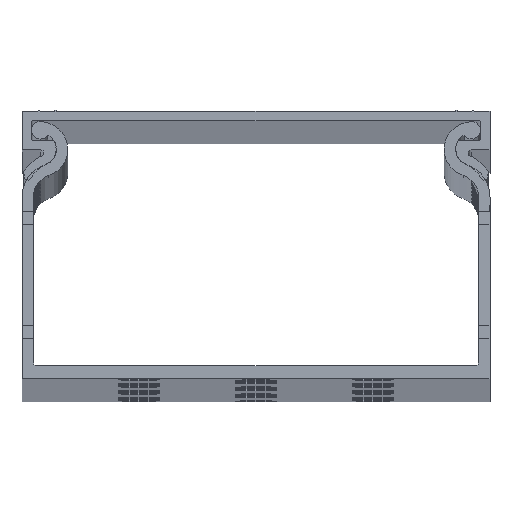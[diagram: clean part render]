
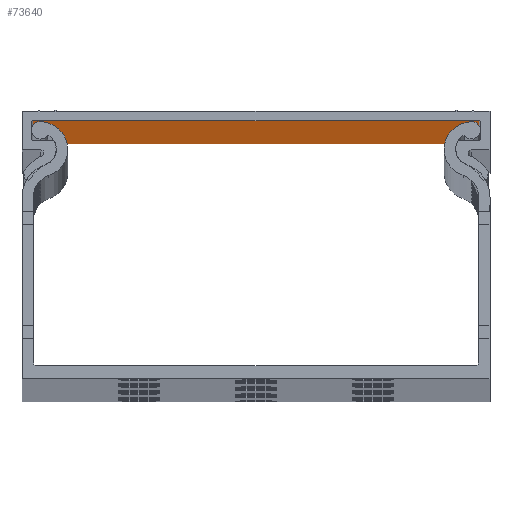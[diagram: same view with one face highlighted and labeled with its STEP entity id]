
A CAD part, top view. The second image highlights one B-rep face of the part: STEP entity #73640.
In plain terms, the highlighted planar face has unit normal (0, -1, 0).
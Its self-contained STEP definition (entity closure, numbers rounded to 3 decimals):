
#34 = VECTOR ( 'NONE', #44565, 1000. ) ;
#151 = CARTESIAN_POINT ( 'NONE',  ( 2601.807, 1295.656, 2000. ) ) ;
#514 = LINE ( 'NONE', #62038, #89097 ) ;
#2178 = DIRECTION ( 'NONE',  ( 0., 1., 0. ) ) ;
#10726 = CARTESIAN_POINT ( 'NONE',  ( 2601.807, 1295.656, 2000. ) ) ;
#12729 = VECTOR ( 'NONE', #36661, 1000. ) ;
#14590 = VERTEX_POINT ( 'NONE', #151 ) ;
#17217 = VERTEX_POINT ( 'NONE', #69914 ) ;
#21426 = LINE ( 'NONE', #78259, #34 ) ;
#30258 = EDGE_LOOP ( 'NONE', ( #31903, #97608, #34166, #80742 ) ) ;
#31903 = ORIENTED_EDGE ( 'NONE', *, *, #32626, .T. ) ;
#32626 = EDGE_CURVE ( 'NONE', #49444, #17217, #21426, .T. ) ;
#34166 = ORIENTED_EDGE ( 'NONE', *, *, #75486, .F. ) ;
#34828 = VECTOR ( 'NONE', #65852, 1000. ) ;
#35563 = DIRECTION ( 'NONE',  ( 0., 0., 1. ) ) ;
#36661 = DIRECTION ( 'NONE',  ( 0., 0., -1. ) ) ;
#37039 = DIRECTION ( 'NONE',  ( 1., 0., 0. ) ) ;
#41357 = EDGE_CURVE ( 'NONE', #14590, #17217, #70356, .T. ) ;
#44565 = DIRECTION ( 'NONE',  ( 1., 0., 0. ) ) ;
#47901 = CARTESIAN_POINT ( 'NONE',  ( 2535.007, 1295.656, 0. ) ) ;
#49444 = VERTEX_POINT ( 'NONE', #47901 ) ;
#53227 = PLANE ( 'NONE',  #87372 ) ;
#57653 = CARTESIAN_POINT ( 'NONE',  ( 2535.007, 1295.656, 2000. ) ) ;
#62038 = CARTESIAN_POINT ( 'NONE',  ( 2568.407, 1295.656, 2000. ) ) ;
#65852 = DIRECTION ( 'NONE',  ( 0., 0., -1. ) ) ;
#69620 = LINE ( 'NONE', #57653, #34828 ) ;
#69914 = CARTESIAN_POINT ( 'NONE',  ( 2601.807, 1295.656, 0. ) ) ;
#70356 = LINE ( 'NONE', #10726, #12729 ) ;
#73640 = ADVANCED_FACE ( 'NONE', ( #85509 ), #53227, .F. ) ;
#75486 = EDGE_CURVE ( 'NONE', #82077, #14590, #514, .T. ) ;
#78259 = CARTESIAN_POINT ( 'NONE',  ( 2568.407, 1295.656, 0. ) ) ;
#80742 = ORIENTED_EDGE ( 'NONE', *, *, #91556, .T. ) ;
#82077 = VERTEX_POINT ( 'NONE', #110235 ) ;
#85509 = FACE_OUTER_BOUND ( 'NONE', #30258, .T. ) ;
#87372 = AXIS2_PLACEMENT_3D ( 'NONE', #105263, #2178, #35563 ) ;
#89097 = VECTOR ( 'NONE', #37039, 1000. ) ;
#91556 = EDGE_CURVE ( 'NONE', #82077, #49444, #69620, .T. ) ;
#97608 = ORIENTED_EDGE ( 'NONE', *, *, #41357, .F. ) ;
#105263 = CARTESIAN_POINT ( 'NONE',  ( 2568.407, 1295.656, 2000. ) ) ;
#110235 = CARTESIAN_POINT ( 'NONE',  ( 2535.007, 1295.656, 2000. ) ) ;
